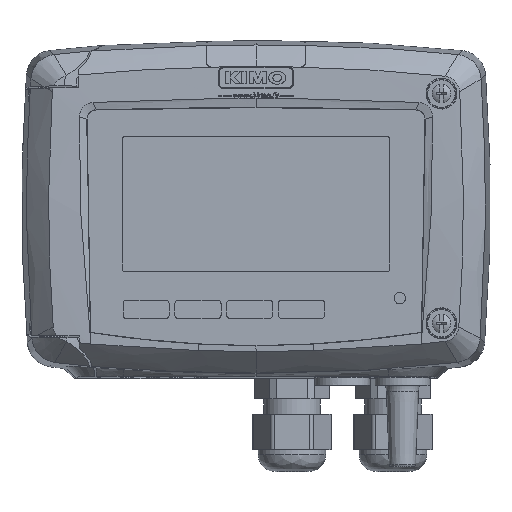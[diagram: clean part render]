
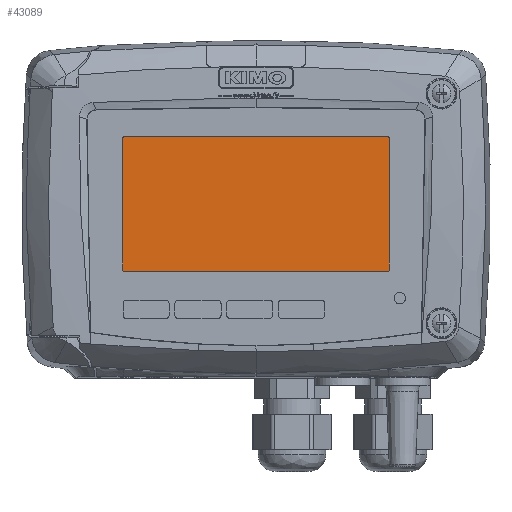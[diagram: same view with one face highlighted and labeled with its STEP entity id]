
A CAD part, top view. The second image highlights one B-rep face of the part: STEP entity #43089.
In plain terms, the highlighted planar face has unit normal (0, 0, 1).
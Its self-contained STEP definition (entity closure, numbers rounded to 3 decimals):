
#10027=DIRECTION('',(0.,1.,0.));
#10028=VECTOR('',#10027,35.);
#10029=CARTESIAN_POINT('',(35.5,-18.,38.095));
#10030=LINE('',#10029,#10028);
#10035=CARTESIAN_POINT('',(35.,-18.,38.095));
#10036=DIRECTION('',(0.,0.,-1.));
#10037=DIRECTION('',(1.,0.,0.));
#10038=AXIS2_PLACEMENT_3D('',#10035,#10036,#10037);
#10049=DIRECTION('',(1.,0.,0.));
#10050=VECTOR('',#10049,70.);
#10051=CARTESIAN_POINT('',(-35.,-18.5,38.095));
#10052=LINE('',#10051,#10050);
#10057=CARTESIAN_POINT('',(-35.,-18.,38.095));
#10058=DIRECTION('',(0.,0.,-1.));
#10059=DIRECTION('',(0.,-1.,0.));
#10060=AXIS2_PLACEMENT_3D('',#10057,#10058,#10059);
#10071=DIRECTION('',(0.,-1.,0.));
#10072=VECTOR('',#10071,35.);
#10073=CARTESIAN_POINT('',(-35.5,17.,38.095));
#10074=LINE('',#10073,#10072);
#10079=CARTESIAN_POINT('',(-35.,17.,38.095));
#10080=DIRECTION('',(0.,0.,-1.));
#10081=DIRECTION('',(-1.,0.,0.));
#10082=AXIS2_PLACEMENT_3D('',#10079,#10080,#10081);
#10093=DIRECTION('',(-1.,0.,0.));
#10094=VECTOR('',#10093,70.);
#10095=CARTESIAN_POINT('',(35.,17.5,38.095));
#10096=LINE('',#10095,#10094);
#10101=CARTESIAN_POINT('',(35.,17.,38.095));
#10102=DIRECTION('',(0.,0.,-1.));
#10103=DIRECTION('',(0.,1.,0.));
#10104=AXIS2_PLACEMENT_3D('',#10101,#10102,#10103);
#29645=CARTESIAN_POINT('',(35.5,-18.,38.095));
#29646=CARTESIAN_POINT('',(35.5,17.,38.095));
#29647=VERTEX_POINT('',#29645);
#29648=VERTEX_POINT('',#29646);
#29649=CARTESIAN_POINT('',(35.,17.5,38.095));
#29650=VERTEX_POINT('',#29649);
#29651=CARTESIAN_POINT('',(-35.,17.5,38.095));
#29652=VERTEX_POINT('',#29651);
#29653=CARTESIAN_POINT('',(-35.5,17.,38.095));
#29654=VERTEX_POINT('',#29653);
#29655=CARTESIAN_POINT('',(-35.5,-18.,38.095));
#29656=VERTEX_POINT('',#29655);
#29657=CARTESIAN_POINT('',(-35.,-18.5,38.095));
#29658=VERTEX_POINT('',#29657);
#29659=CARTESIAN_POINT('',(35.,-18.5,38.095));
#29660=VERTEX_POINT('',#29659);
#43067=CARTESIAN_POINT('',(0.,0.,
38.095));
#43068=DIRECTION('',(0.,0.,1.));
#43069=DIRECTION('',(-1.,0.,0.));
#43070=AXIS2_PLACEMENT_3D('',#43067,#43068,#43069);
#43071=PLANE('',#43070);
#43072=ORIENTED_EDGE('',*,*,#43057,.F.);
#43074=ORIENTED_EDGE('',*,*,#43073,.T.);
#43076=ORIENTED_EDGE('',*,*,#43075,.F.);
#43078=ORIENTED_EDGE('',*,*,#43077,.T.);
#43080=ORIENTED_EDGE('',*,*,#43079,.F.);
#43082=ORIENTED_EDGE('',*,*,#43081,.T.);
#43084=ORIENTED_EDGE('',*,*,#43083,.F.);
#43086=ORIENTED_EDGE('',*,*,#43085,.T.);
#43087=EDGE_LOOP('',(#43072,#43074,#43076,#43078,#43080,#43082,#43084,#43086));
#43088=FACE_OUTER_BOUND('',#43087,.F.);
#10039=CIRCLE('',#10038,0.5);
#10061=CIRCLE('',#10060,0.5);
#10083=CIRCLE('',#10082,0.5);
#10105=CIRCLE('',#10104,0.5);
#43057=EDGE_CURVE('',#29647,#29648,#10030,.T.);
#43073=EDGE_CURVE('',#29647,#29660,#10039,.T.);
#43075=EDGE_CURVE('',#29658,#29660,#10052,.T.);
#43077=EDGE_CURVE('',#29658,#29656,#10061,.T.);
#43079=EDGE_CURVE('',#29654,#29656,#10074,.T.);
#43081=EDGE_CURVE('',#29654,#29652,#10083,.T.);
#43083=EDGE_CURVE('',#29650,#29652,#10096,.T.);
#43085=EDGE_CURVE('',#29650,#29648,#10105,.T.);
#43089=ADVANCED_FACE('',(#43088),#43071,.T.);
